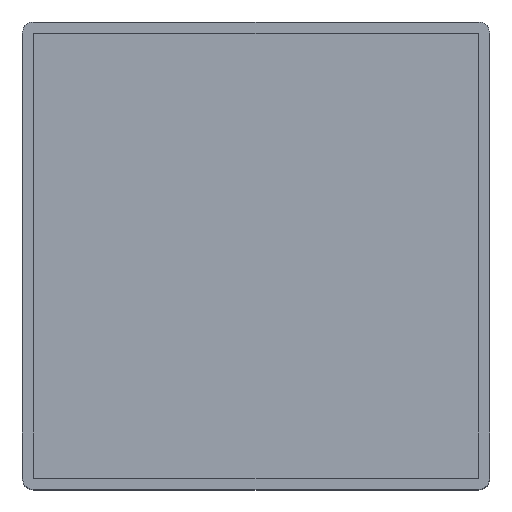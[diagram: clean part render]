
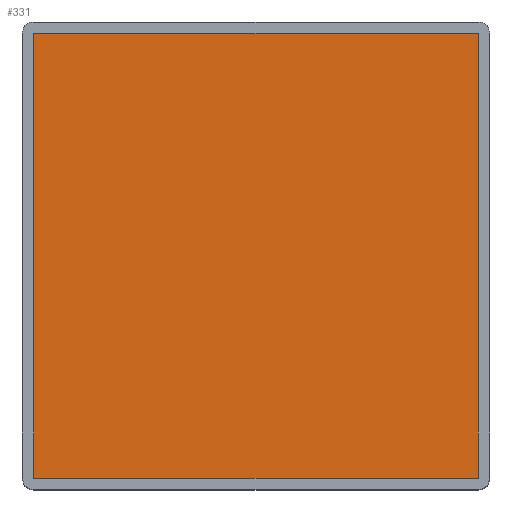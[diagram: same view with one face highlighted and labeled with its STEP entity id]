
A CAD part, top view. The second image highlights one B-rep face of the part: STEP entity #331.
In plain terms, the highlighted planar face has unit normal (0, 0, 1).
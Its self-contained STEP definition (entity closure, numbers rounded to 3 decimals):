
#22 = VERTEX_POINT('',#23);
#23 = CARTESIAN_POINT('',(19.048,-19.048,
    -18.571));
#32 = PLANE('',#33);
#33 = AXIS2_PLACEMENT_3D('',#34,#35,#36);
#34 = CARTESIAN_POINT('',(19.048,-19.048,
    -18.571));
#35 = DIRECTION('',(1.,0.,0.));
#36 = DIRECTION('',(0.,0.,1.));
#44 = PLANE('',#45);
#45 = AXIS2_PLACEMENT_3D('',#46,#47,#48);
#46 = CARTESIAN_POINT('',(-19.048,-19.048,
    -18.571));
#47 = DIRECTION('',(0.,1.,0.));
#48 = DIRECTION('',(0.,0.,1.));
#56 = EDGE_CURVE('',#22,#57,#59,.T.);
#57 = VERTEX_POINT('',#58);
#58 = CARTESIAN_POINT('',(19.048,19.048,
    -18.571));
#59 = SURFACE_CURVE('',#60,(#64,#71),.PCURVE_S1.);
#60 = LINE('',#61,#62);
#61 = CARTESIAN_POINT('',(19.048,-19.048,
    -18.571));
#62 = VECTOR('',#63,1.);
#63 = DIRECTION('',(0.,1.,0.));
#64 = PCURVE('',#32,#65);
#65 = DEFINITIONAL_REPRESENTATION('',(#66),#70);
#66 = LINE('',#67,#68);
#67 = CARTESIAN_POINT('',(0.,0.));
#68 = VECTOR('',#69,1.);
#69 = DIRECTION('',(0.,-1.));
#70 = ( GEOMETRIC_REPRESENTATION_CONTEXT(2) 
PARAMETRIC_REPRESENTATION_CONTEXT() REPRESENTATION_CONTEXT('2D SPACE',''
  ) );
#71 = PCURVE('',#72,#77);
#72 = PLANE('',#73);
#73 = AXIS2_PLACEMENT_3D('',#74,#75,#76);
#74 = CARTESIAN_POINT('',(-19.048,-19.048,
    -18.571));
#75 = DIRECTION('',(0.,0.,1.));
#76 = DIRECTION('',(1.,0.,0.));
#77 = DEFINITIONAL_REPRESENTATION('',(#78),#82);
#78 = LINE('',#79,#80);
#79 = CARTESIAN_POINT('',(38.095,0.));
#80 = VECTOR('',#81,1.);
#81 = DIRECTION('',(0.,1.));
#82 = ( GEOMETRIC_REPRESENTATION_CONTEXT(2) 
PARAMETRIC_REPRESENTATION_CONTEXT() REPRESENTATION_CONTEXT('2D SPACE',''
  ) );
#100 = PLANE('',#101);
#101 = AXIS2_PLACEMENT_3D('',#102,#103,#104);
#102 = CARTESIAN_POINT('',(-19.048,19.048,
    -18.571));
#103 = DIRECTION('',(0.,1.,0.));
#104 = DIRECTION('',(0.,0.,1.));
#141 = EDGE_CURVE('',#142,#22,#144,.T.);
#142 = VERTEX_POINT('',#143);
#143 = CARTESIAN_POINT('',(-19.048,-19.048,
    -18.571));
#144 = SURFACE_CURVE('',#145,(#149,#156),.PCURVE_S1.);
#145 = LINE('',#146,#147);
#146 = CARTESIAN_POINT('',(-19.048,-19.048,
    -18.571));
#147 = VECTOR('',#148,1.);
#148 = DIRECTION('',(1.,0.,0.));
#149 = PCURVE('',#44,#150);
#150 = DEFINITIONAL_REPRESENTATION('',(#151),#155);
#151 = LINE('',#152,#153);
#152 = CARTESIAN_POINT('',(0.,0.));
#153 = VECTOR('',#154,1.);
#154 = DIRECTION('',(0.,1.));
#155 = ( GEOMETRIC_REPRESENTATION_CONTEXT(2) 
PARAMETRIC_REPRESENTATION_CONTEXT() REPRESENTATION_CONTEXT('2D SPACE',''
  ) );
#156 = PCURVE('',#72,#157);
#157 = DEFINITIONAL_REPRESENTATION('',(#158),#162);
#158 = LINE('',#159,#160);
#159 = CARTESIAN_POINT('',(0.,0.));
#160 = VECTOR('',#161,1.);
#161 = DIRECTION('',(1.,0.));
#162 = ( GEOMETRIC_REPRESENTATION_CONTEXT(2) 
PARAMETRIC_REPRESENTATION_CONTEXT() REPRESENTATION_CONTEXT('2D SPACE',''
  ) );
#180 = PLANE('',#181);
#181 = AXIS2_PLACEMENT_3D('',#182,#183,#184);
#182 = CARTESIAN_POINT('',(-19.048,-19.048,
    -18.571));
#183 = DIRECTION('',(1.,0.,0.));
#184 = DIRECTION('',(0.,0.,1.));
#218 = EDGE_CURVE('',#142,#219,#221,.T.);
#219 = VERTEX_POINT('',#220);
#220 = CARTESIAN_POINT('',(-19.048,19.048,
    -18.571));
#221 = SURFACE_CURVE('',#222,(#226,#233),.PCURVE_S1.);
#222 = LINE('',#223,#224);
#223 = CARTESIAN_POINT('',(-19.048,-19.048,
    -18.571));
#224 = VECTOR('',#225,1.);
#225 = DIRECTION('',(0.,1.,0.));
#226 = PCURVE('',#180,#227);
#227 = DEFINITIONAL_REPRESENTATION('',(#228),#232);
#228 = LINE('',#229,#230);
#229 = CARTESIAN_POINT('',(0.,0.));
#230 = VECTOR('',#231,1.);
#231 = DIRECTION('',(0.,-1.));
#232 = ( GEOMETRIC_REPRESENTATION_CONTEXT(2) 
PARAMETRIC_REPRESENTATION_CONTEXT() REPRESENTATION_CONTEXT('2D SPACE',''
  ) );
#233 = PCURVE('',#72,#234);
#234 = DEFINITIONAL_REPRESENTATION('',(#235),#239);
#235 = LINE('',#236,#237);
#236 = CARTESIAN_POINT('',(0.,0.));
#237 = VECTOR('',#238,1.);
#238 = DIRECTION('',(0.,1.));
#239 = ( GEOMETRIC_REPRESENTATION_CONTEXT(2) 
PARAMETRIC_REPRESENTATION_CONTEXT() REPRESENTATION_CONTEXT('2D SPACE',''
  ) );
#288 = EDGE_CURVE('',#219,#57,#289,.T.);
#289 = SURFACE_CURVE('',#290,(#294,#301),.PCURVE_S1.);
#290 = LINE('',#291,#292);
#291 = CARTESIAN_POINT('',(-19.048,19.048,
    -18.571));
#292 = VECTOR('',#293,1.);
#293 = DIRECTION('',(1.,0.,0.));
#294 = PCURVE('',#100,#295);
#295 = DEFINITIONAL_REPRESENTATION('',(#296),#300);
#296 = LINE('',#297,#298);
#297 = CARTESIAN_POINT('',(0.,0.));
#298 = VECTOR('',#299,1.);
#299 = DIRECTION('',(0.,1.));
#300 = ( GEOMETRIC_REPRESENTATION_CONTEXT(2) 
PARAMETRIC_REPRESENTATION_CONTEXT() REPRESENTATION_CONTEXT('2D SPACE',''
  ) );
#301 = PCURVE('',#72,#302);
#302 = DEFINITIONAL_REPRESENTATION('',(#303),#307);
#303 = LINE('',#304,#305);
#304 = CARTESIAN_POINT('',(0.,38.095));
#305 = VECTOR('',#306,1.);
#306 = DIRECTION('',(1.,0.));
#307 = ( GEOMETRIC_REPRESENTATION_CONTEXT(2) 
PARAMETRIC_REPRESENTATION_CONTEXT() REPRESENTATION_CONTEXT('2D SPACE',''
  ) );
#331 = ADVANCED_FACE('',(#332),#72,.T.);
#332 = FACE_BOUND('',#333,.T.);
#333 = EDGE_LOOP('',(#334,#335,#336,#337));
#334 = ORIENTED_EDGE('',*,*,#218,.F.);
#335 = ORIENTED_EDGE('',*,*,#141,.T.);
#336 = ORIENTED_EDGE('',*,*,#56,.T.);
#337 = ORIENTED_EDGE('',*,*,#288,.F.);
